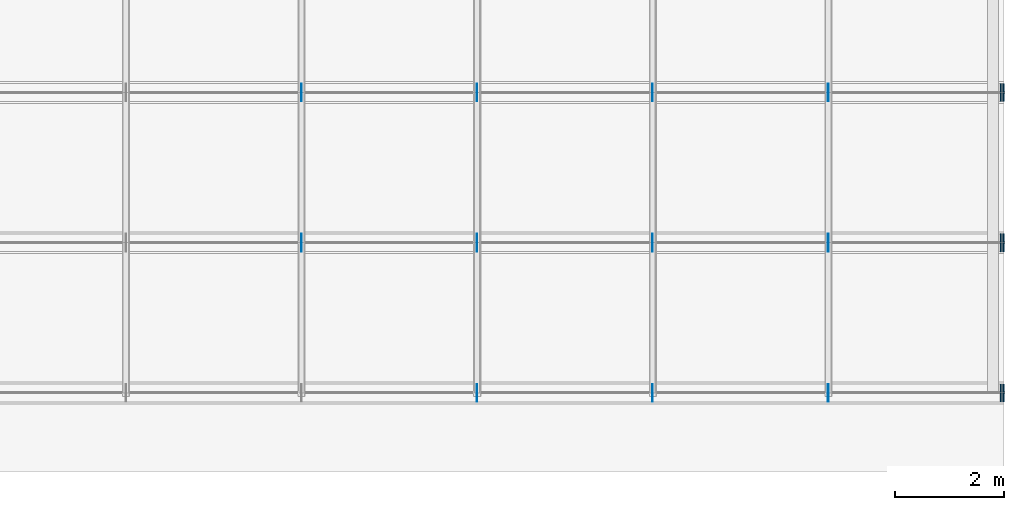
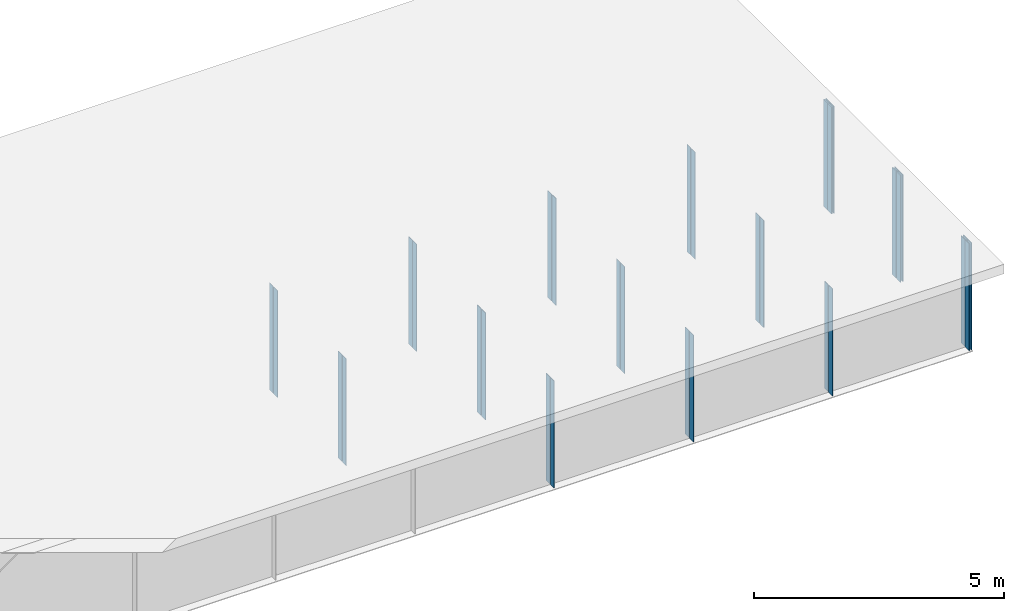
# One storey, part 19 of 20: 34 plates.
"""IFC4 building model written with IfcOpenShell, lengths in metres."""

from ifc_helpers import new_model, si_unit, frame, origin, origin_with_axes, origin_2d_with_axis, place, context, subcontext, project, spatial, rectangle, extrude, element, save


model = new_model("IFC4")

# Units and contexts
model_context = context("Model", 3, precision=1e-05, world=origin())
body_context = subcontext(model_context, "Body", "Model", "MODEL_VIEW")
ifc_project = project(units=[si_unit("LENGTHUNIT", "METRE"), si_unit("AREAUNIT", "SQUARE_METRE"), si_unit("VOLUMEUNIT", "CUBIC_METRE"), si_unit("PLANEANGLEUNIT", "RADIAN")], contexts=[model_context])

# Site, building, storey
site_placement = place(None, origin_with_axes())
site = spatial("IfcSite", under=ifc_project, at=site_placement, Name="Default Site")
building_placement = place(site_placement, origin_with_axes())
building = spatial("IfcBuilding", under=site, at=building_placement, Name="Bridge Structure")
storey_placement = place(building_placement, origin_with_axes())
storey = spatial("IfcBuildingStorey", under=building, at=storey_placement, Name="Superstructure")

# Plates
for number, where, z_axis, x_axis, name in (
    (1, (35.354, -5.41425, -1.307), (0.0, 0.0, 1.0), (1.0, 0.0, 0.0), "Intermediate Stiffener 1"),
    (2, (35.354, -5.58575, -1.307), (0.0, 0.0, 1.0), (1.0, 0.0, 0.0), "Intermediate Stiffener 1"),
    (3, (38.568, -5.41425, -1.307), (0.0, 0.0, 1.0), (1.0, 0.0, 0.0), "Intermediate Stiffener 1"),
    (4, (38.568, -5.58575, -1.307), (0.0, 0.0, 1.0), (1.0, 0.0, 0.0), "Intermediate Stiffener 1"),
    (5, (41.782000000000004, -5.41425, -1.307), (0.0, 0.0, 1.0), (1.0, 0.0, 0.0), "Intermediate Stiffener 1"),
    (6, (41.782000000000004, -5.58575, -1.307), (0.0, 0.0, 1.0), (1.0, 0.0, 0.0), "Intermediate Stiffener 1"),
):
    element("IfcPlate", number, at=place(storey_placement, frame(where, z_axis=z_axis, x_axis=x_axis)), inside=storey, Name=name, context=body_context, shape_type="SweptSolid", body=[
        extrude(rectangle(XDim=0.012, YDim=0.1535, at=origin_2d_with_axis()), origin_with_axes(), (0.0, 0.0, 1.0), 2.614),
    ])
for number, where, z_axis, x_axis, name in (
    (7, (44.99, -5.41425, -1.307), (0.0, 0.0, 1.0), (1.0, 0.0, 0.0), "End Stiffener 1"),
    (8, (44.99, -5.58575, -1.307), (0.0, 0.0, 1.0), (1.0, 0.0, 0.0), "End Stiffener 1"),
    (9, (44.94, -5.41425, -1.307), (0.0, 0.0, 1.0), (1.0, 0.0, 0.0), "End Stiffener 1"),
    (10, (44.94, -5.58575, -1.307), (0.0, 0.0, 1.0), (1.0, 0.0, 0.0), "End Stiffener 1"),
):
    element("IfcPlate", number, at=place(storey_placement, frame(where, z_axis=z_axis, x_axis=x_axis)), inside=storey, Name=name, context=body_context, shape_type="SweptSolid", body=[
        extrude(rectangle(XDim=0.02, YDim=0.1535, at=origin_2d_with_axis()), origin_with_axes(), (0.0, 0.0, 1.0), 2.614),
    ])
for number, where, z_axis, x_axis, name in (
    (11, (32.14, -2.66425, -1.307), (0.0, 0.0, 1.0), (1.0, 0.0, 0.0), "Intermediate Stiffener 2"),
    (12, (32.14, -2.83575, -1.307), (0.0, 0.0, 1.0), (1.0, 0.0, 0.0), "Intermediate Stiffener 2"),
    (13, (35.354, -2.66425, -1.307), (0.0, 0.0, 1.0), (1.0, 0.0, 0.0), "Intermediate Stiffener 2"),
    (14, (35.354, -2.83575, -1.307), (0.0, 0.0, 1.0), (1.0, 0.0, 0.0), "Intermediate Stiffener 2"),
    (15, (38.568, -2.66425, -1.307), (0.0, 0.0, 1.0), (1.0, 0.0, 0.0), "Intermediate Stiffener 2"),
    (16, (38.568, -2.83575, -1.307), (0.0, 0.0, 1.0), (1.0, 0.0, 0.0), "Intermediate Stiffener 2"),
    (17, (41.782000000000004, -2.66425, -1.307), (0.0, 0.0, 1.0), (1.0, 0.0, 0.0), "Intermediate Stiffener 2"),
    (18, (41.782000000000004, -2.83575, -1.307), (0.0, 0.0, 1.0), (1.0, 0.0, 0.0), "Intermediate Stiffener 2"),
):
    element("IfcPlate", number, at=place(storey_placement, frame(where, z_axis=z_axis, x_axis=x_axis)), inside=storey, Name=name, context=body_context, shape_type="SweptSolid", body=[
        extrude(rectangle(XDim=0.012, YDim=0.1535, at=origin_2d_with_axis()), origin_with_axes(), (0.0, 0.0, 1.0), 2.614),
    ])
for number, where, z_axis, x_axis, name in (
    (19, (44.99, -2.66425, -1.307), (0.0, 0.0, 1.0), (1.0, 0.0, 0.0), "End Stiffener 2"),
    (20, (44.99, -2.83575, -1.307), (0.0, 0.0, 1.0), (1.0, 0.0, 0.0), "End Stiffener 2"),
    (21, (44.94, -2.66425, -1.307), (0.0, 0.0, 1.0), (1.0, 0.0, 0.0), "End Stiffener 2"),
    (22, (44.94, -2.83575, -1.307), (0.0, 0.0, 1.0), (1.0, 0.0, 0.0), "End Stiffener 2"),
):
    element("IfcPlate", number, at=place(storey_placement, frame(where, z_axis=z_axis, x_axis=x_axis)), inside=storey, Name=name, context=body_context, shape_type="SweptSolid", body=[
        extrude(rectangle(XDim=0.02, YDim=0.1535, at=origin_2d_with_axis()), origin_with_axes(), (0.0, 0.0, 1.0), 2.614),
    ])
for number, where, z_axis, x_axis, name in (
    (23, (32.14, 0.08575, -1.307), (0.0, 0.0, 1.0), (1.0, 0.0, 0.0), "Intermediate Stiffener 3"),
    (24, (32.14, -0.08575, -1.307), (0.0, 0.0, 1.0), (1.0, 0.0, 0.0), "Intermediate Stiffener 3"),
    (25, (35.354, 0.08575, -1.307), (0.0, 0.0, 1.0), (1.0, 0.0, 0.0), "Intermediate Stiffener 3"),
    (26, (35.354, -0.08575, -1.307), (0.0, 0.0, 1.0), (1.0, 0.0, 0.0), "Intermediate Stiffener 3"),
    (27, (38.568, 0.08575, -1.307), (0.0, 0.0, 1.0), (1.0, 0.0, 0.0), "Intermediate Stiffener 3"),
    (28, (38.568, -0.08575, -1.307), (0.0, 0.0, 1.0), (1.0, 0.0, 0.0), "Intermediate Stiffener 3"),
    (29, (41.782000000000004, 0.08575, -1.307), (0.0, 0.0, 1.0), (1.0, 0.0, 0.0), "Intermediate Stiffener 3"),
    (30, (41.782000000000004, -0.08575, -1.307), (0.0, 0.0, 1.0), (1.0, 0.0, 0.0), "Intermediate Stiffener 3"),
):
    element("IfcPlate", number, at=place(storey_placement, frame(where, z_axis=z_axis, x_axis=x_axis)), inside=storey, Name=name, context=body_context, shape_type="SweptSolid", body=[
        extrude(rectangle(XDim=0.012, YDim=0.1535, at=origin_2d_with_axis()), origin_with_axes(), (0.0, 0.0, 1.0), 2.614),
    ])
for number, where, z_axis, x_axis, name in (
    (31, (44.99, 0.08575, -1.307), (0.0, 0.0, 1.0), (1.0, 0.0, 0.0), "End Stiffener 3"),
    (32, (44.99, -0.08575, -1.307), (0.0, 0.0, 1.0), (1.0, 0.0, 0.0), "End Stiffener 3"),
    (33, (44.94, 0.08575, -1.307), (0.0, 0.0, 1.0), (1.0, 0.0, 0.0), "End Stiffener 3"),
    (34, (44.94, -0.08575, -1.307), (0.0, 0.0, 1.0), (1.0, 0.0, 0.0), "End Stiffener 3"),
):
    element("IfcPlate", number, at=place(storey_placement, frame(where, z_axis=z_axis, x_axis=x_axis)), inside=storey, Name=name, context=body_context, shape_type="SweptSolid", body=[
        extrude(rectangle(XDim=0.02, YDim=0.1535, at=origin_2d_with_axis()), origin_with_axes(), (0.0, 0.0, 1.0), 2.614),
    ])

save(model, "model.ifc")
